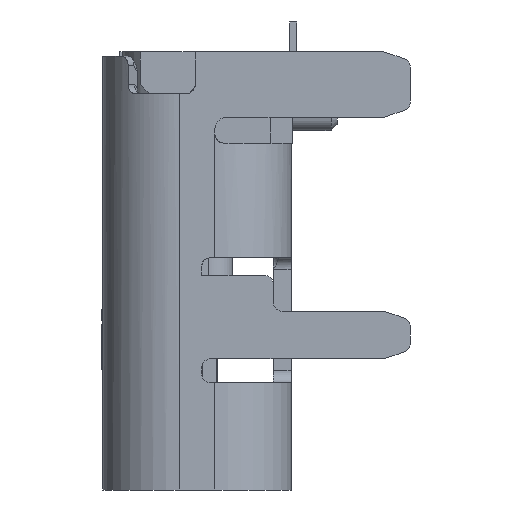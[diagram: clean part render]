
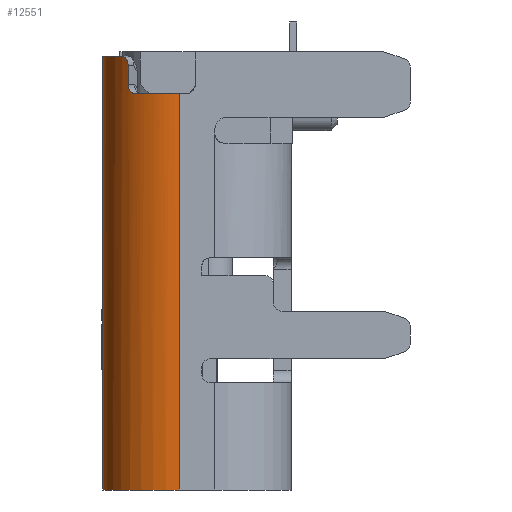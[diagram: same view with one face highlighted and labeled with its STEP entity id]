
A CAD part, left-side view. The second image highlights one B-rep face of the part: STEP entity #12551.
In plain terms, the highlighted cylindrical face has radius 1.28 mm (diameter 2.56 mm), a partial arc.
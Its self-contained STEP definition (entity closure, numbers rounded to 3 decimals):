
#104=CARTESIAN_POINT('',(-3.19,0.295,-3.633));
#105=DIRECTION('',(0.,0.,-1.));
#106=DIRECTION('',(-0.657,0.754,0.));
#107=AXIS2_PLACEMENT_3D('',#104,#105,#106);
#253=DIRECTION('',(0.,0.,1.));
#254=VECTOR('',#253,7.275);
#255=CARTESIAN_POINT('',(-3.19,1.575,-10.908));
#256=LINE('',#255,#254);
#257=CARTESIAN_POINT('',(-4.031,1.26,-3.633));
#258=CARTESIAN_POINT('',(-4.045,1.248,-3.633));
#259=CARTESIAN_POINT('',(-4.07,1.224,-3.639));
#260=CARTESIAN_POINT('',(-4.101,1.195,-3.66));
#261=CARTESIAN_POINT('',(-4.125,1.169,-3.694));
#262=CARTESIAN_POINT('',(-4.14,1.153,-3.738));
#263=CARTESIAN_POINT('',(-4.143,1.15,-3.767));
#264=CARTESIAN_POINT('',(-4.143,1.15,-3.783));
#266=DIRECTION('',(0.,0.,-1.));
#267=VECTOR('',#266,0.325);
#268=CARTESIAN_POINT('',(-4.143,1.15,-3.783));
#269=LINE('',#268,#267);
#270=CARTESIAN_POINT('',(-4.143,1.15,-4.108));
#271=CARTESIAN_POINT('',(-4.143,1.15,-4.123));
#272=CARTESIAN_POINT('',(-4.145,1.147,-4.152));
#273=CARTESIAN_POINT('',(-4.16,1.13,-4.197));
#274=CARTESIAN_POINT('',(-4.182,1.104,-4.23));
#275=CARTESIAN_POINT('',(-4.209,1.07,-4.253));
#276=CARTESIAN_POINT('',(-4.228,1.045,-4.258));
#277=CARTESIAN_POINT('',(-4.237,1.031,-4.258));
#279=CARTESIAN_POINT('',(-3.19,0.295,-4.258));
#280=DIRECTION('',(0.,0.,-1.));
#281=DIRECTION('',(-0.98,0.197,0.));
#282=AXIS2_PLACEMENT_3D('',#279,#280,#281);
#292=CARTESIAN_POINT('',(-3.19,0.295,-4.258));
#293=DIRECTION('',(0.,0.,-1.));
#294=DIRECTION('',(-0.921,0.391,0.));
#295=AXIS2_PLACEMENT_3D('',#292,#293,#294);
#519=DIRECTION('',(0.,0.,1.));
#520=VECTOR('',#519,6.65);
#521=CARTESIAN_POINT('',(-4.47,0.295,
-10.908));
#522=LINE('',#521,#520);
#668=CARTESIAN_POINT('',(-3.19,0.295,-10.908));
#669=DIRECTION('',(0.,0.,1.));
#670=DIRECTION('',(0.,1.,0.));
#671=AXIS2_PLACEMENT_3D('',#668,#669,#670);
#7186=CARTESIAN_POINT('',(-3.19,0.295,-4.258));
#7187=DIRECTION('',(0.,0.,-1.));
#7188=DIRECTION('',(-1.,0.,0.));
#7189=AXIS2_PLACEMENT_3D('',#7186,#7187,#7188);
#9434=CARTESIAN_POINT('',(-3.19,1.575,
-10.908));
#9436=VERTEX_POINT('',#9434);
#9501=CARTESIAN_POINT('',(-4.031,1.26,
-3.633));
#9503=VERTEX_POINT('',#9501);
#9504=CARTESIAN_POINT('',(-3.19,1.575,
-3.633));
#9505=VERTEX_POINT('',#9504);
#9509=CARTESIAN_POINT('',(-4.143,1.15,
-3.783));
#9511=VERTEX_POINT('',#9509);
#9524=CARTESIAN_POINT('',(-4.143,1.15,
-4.108));
#9525=VERTEX_POINT('',#9524);
#9527=CARTESIAN_POINT('',(-4.47,0.295,
-10.908));
#9528=CARTESIAN_POINT('',(-4.47,0.295,
-4.258));
#9529=VERTEX_POINT('',#9527);
#9530=VERTEX_POINT('',#9528);
#9531=VERTEX_POINT('',#277);
#9532=CARTESIAN_POINT('',(-4.445,0.547,
-4.258));
#9533=CARTESIAN_POINT('',(-4.368,0.795,
-4.258));
#9534=VERTEX_POINT('',#9532);
#9535=VERTEX_POINT('',#9533);
#12528=CARTESIAN_POINT('',(-3.19,0.295,-3.487));
#12529=DIRECTION('',(0.,0.,-1.));
#12530=DIRECTION('',(-0.999,-0.051,0.));
#12531=AXIS2_PLACEMENT_3D('',#12528,#12529,#12530);
#12532=CYLINDRICAL_SURFACE('',#12531,1.28);
#12534=ORIENTED_EDGE('',*,*,#12533,.F.);
#12536=ORIENTED_EDGE('',*,*,#12535,.F.);
#12538=ORIENTED_EDGE('',*,*,#12537,.F.);
#12540=ORIENTED_EDGE('',*,*,#12539,.F.);
#12542=ORIENTED_EDGE('',*,*,#12541,.T.);
#12543=ORIENTED_EDGE('',*,*,#12348,.F.);
#12544=ORIENTED_EDGE('',*,*,#12370,.T.);
#12545=ORIENTED_EDGE('',*,*,#12504,.T.);
#12546=ORIENTED_EDGE('',*,*,#12517,.T.);
#12548=ORIENTED_EDGE('',*,*,#12547,.F.);
#12549=EDGE_LOOP('',(#12534,#12536,#12538,#12540,#12542,#12543,#12544,#12545,
#12546,#12548));
#12550=FACE_OUTER_BOUND('',#12549,.F.);
#108=CIRCLE('',#107,1.28);
#265=B_SPLINE_CURVE_WITH_KNOTS('',3,(#257,#258,#259,#260,#261,#262,#263,#264),
.UNSPECIFIED.,.F.,.F.,(4,1,1,1,1,4),(0.,0.2,0.4,0.6,0.8,1.),
.UNSPECIFIED.);
#278=B_SPLINE_CURVE_WITH_KNOTS('',3,(#270,#271,#272,#273,#274,#275,#276,#277),
.UNSPECIFIED.,.F.,.F.,(4,1,1,1,1,4),(0.,0.2,0.4,0.6,0.8,1.),
.UNSPECIFIED.);
#283=CIRCLE('',#282,1.28);
#296=CIRCLE('',#295,1.28);
#672=CIRCLE('',#671,1.28);
#7190=CIRCLE('',#7189,1.28);
#12348=EDGE_CURVE('',#9503,#9505,#108,.T.);
#12370=EDGE_CURVE('',#9503,#9511,#265,.T.);
#12504=EDGE_CURVE('',#9511,#9525,#269,.T.);
#12517=EDGE_CURVE('',#9525,#9531,#278,.T.);
#12533=EDGE_CURVE('',#9534,#9535,#283,.T.);
#12535=EDGE_CURVE('',#9530,#9534,#7190,.T.);
#12537=EDGE_CURVE('',#9529,#9530,#522,.T.);
#12539=EDGE_CURVE('',#9436,#9529,#672,.T.);
#12541=EDGE_CURVE('',#9436,#9505,#256,.T.);
#12547=EDGE_CURVE('',#9535,#9531,#296,.T.);
#12551=ADVANCED_FACE('',(#12550),#12532,.T.);
